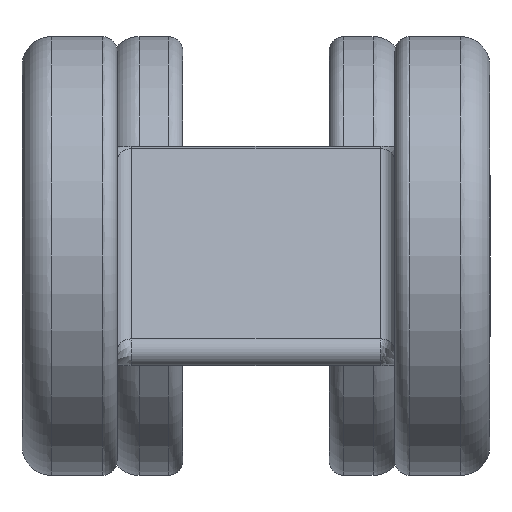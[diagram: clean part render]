
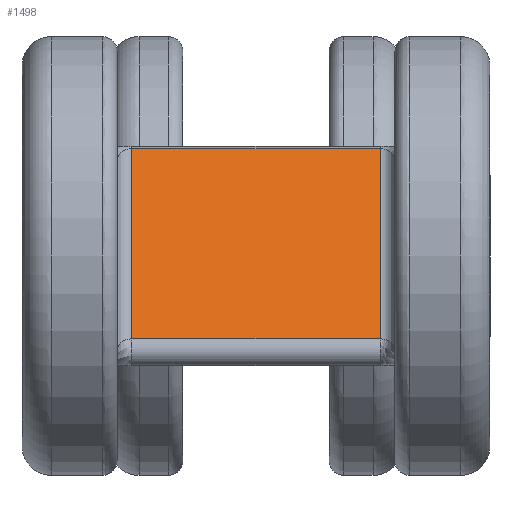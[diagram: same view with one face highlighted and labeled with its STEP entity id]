
A CAD part, left-side view. The second image highlights one B-rep face of the part: STEP entity #1498.
In plain terms, the highlighted planar face has unit normal (-0.549, 0, 0.836).
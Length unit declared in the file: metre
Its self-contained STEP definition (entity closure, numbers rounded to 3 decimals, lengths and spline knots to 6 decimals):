
#184=LINE('',#2472,#284);
#185=LINE('',#2475,#285);
#186=LINE('',#2477,#286);
#187=LINE('',#2479,#287);
#284=VECTOR('',#1924,1.);
#285=VECTOR('',#1925,1.);
#286=VECTOR('',#1926,1.);
#287=VECTOR('',#1927,1.);
#438=ORIENTED_EDGE('',*,*,#886,.T.);
#439=ORIENTED_EDGE('',*,*,#887,.T.);
#440=ORIENTED_EDGE('',*,*,#888,.F.);
#441=ORIENTED_EDGE('',*,*,#889,.T.);
#886=EDGE_CURVE('',#1109,#1110,#184,.T.);
#887=EDGE_CURVE('',#1110,#1111,#185,.T.);
#888=EDGE_CURVE('',#1112,#1111,#186,.T.);
#889=EDGE_CURVE('',#1112,#1109,#187,.F.);
#1109=VERTEX_POINT('',#2473);
#1110=VERTEX_POINT('',#2474);
#1111=VERTEX_POINT('',#2476);
#1112=VERTEX_POINT('',#2478);
#1256=EDGE_LOOP('',(#438,#439,#440,#441));
#1370=FACE_BOUND('',#1256,.T.);
#1474=PLANE('',#1635);
#1498=ADVANCED_FACE('',(#1370),#1474,.T.);
#1635=AXIS2_PLACEMENT_3D('',#2471,#1922,#1923);
#1922=DIRECTION('',(-0.549,0.,0.836));
#1923=DIRECTION('',(0.836,0.,0.549));
#1924=DIRECTION('',(0.836,0.,0.549));
#1925=DIRECTION('',(0.,1.,0.));
#1926=DIRECTION('',(0.836,0.,0.549));
#1927=DIRECTION('',(0.,1.,0.));
#2471=CARTESIAN_POINT('',(-0.059294,-0.0095,0.00375));
#2472=CARTESIAN_POINT('',(-0.053589,-0.0085,0.0075));
#2473=CARTESIAN_POINT('',(-0.073618,-0.0085,-0.005664));
#2474=CARTESIAN_POINT('',(-0.053839,-0.0085,0.007336));
#2475=CARTESIAN_POINT('',(-0.053839,-0.0095,0.007336));
#2476=CARTESIAN_POINT('',(-0.053839,0.0085,0.007336));
#2477=CARTESIAN_POINT('',(-0.053589,0.0085,0.0075));
#2478=CARTESIAN_POINT('',(-0.073618,0.0085,-0.005664));
#2479=CARTESIAN_POINT('',(-0.073618,-0.0095,-0.005664));
